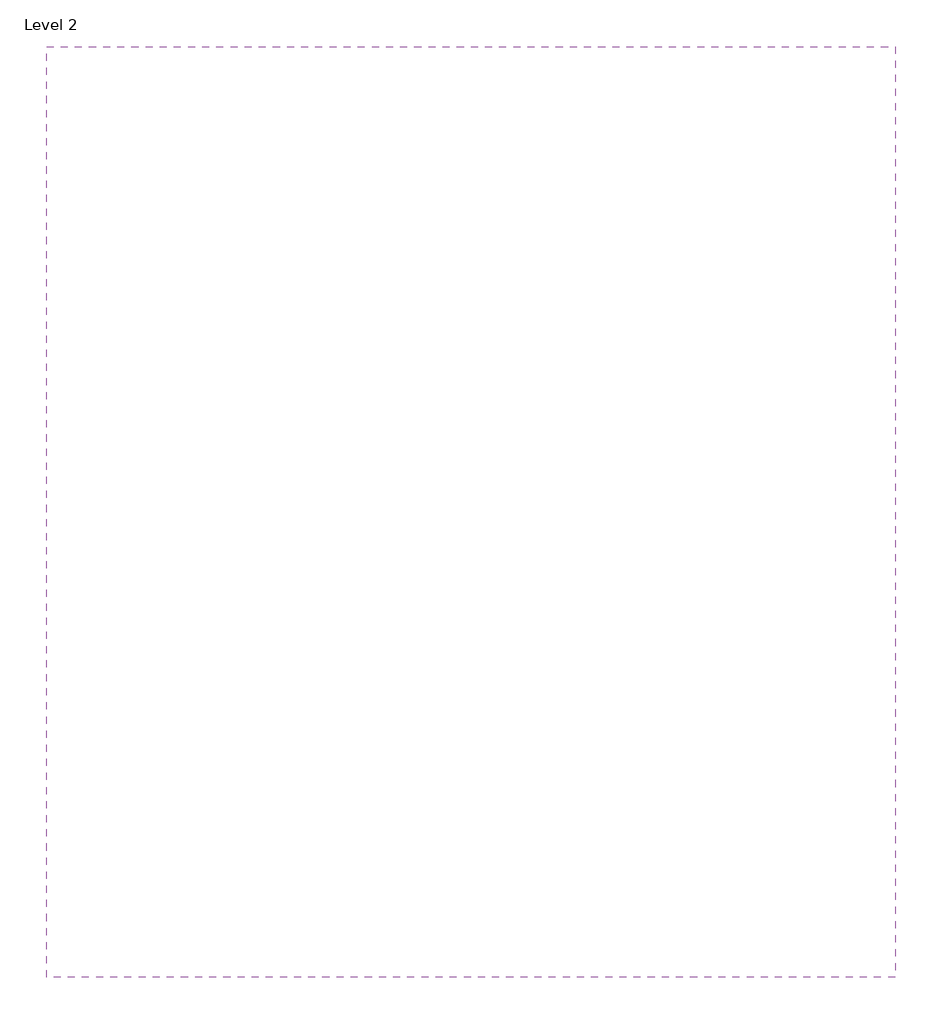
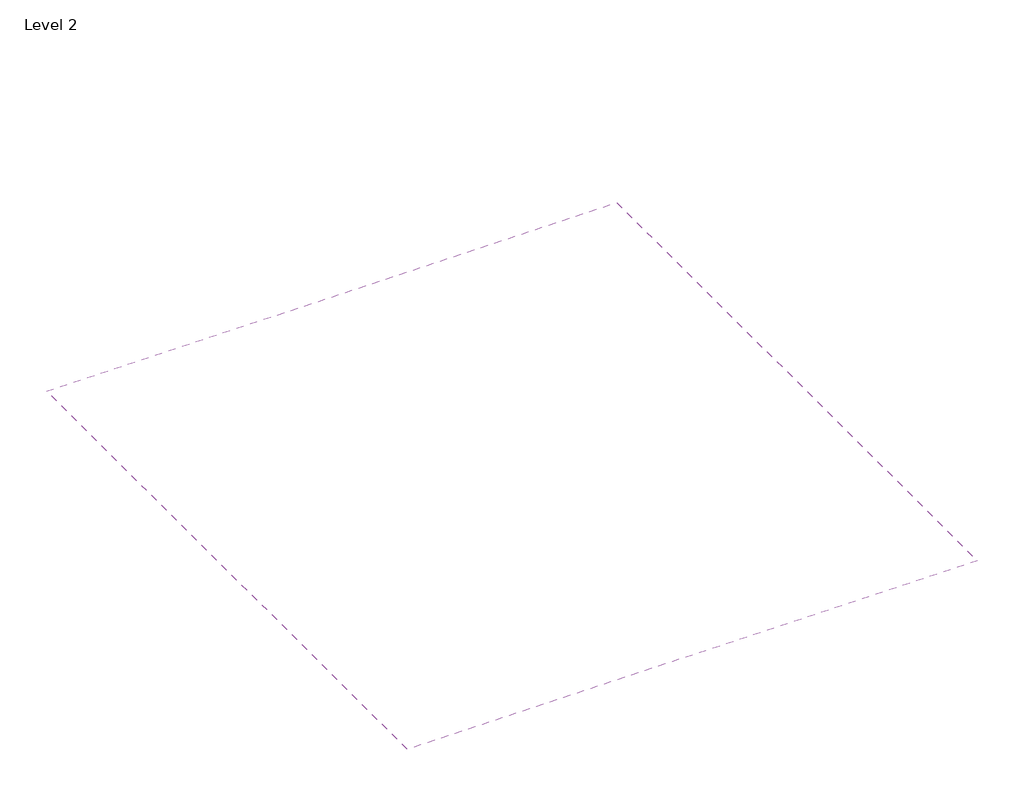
# One storey: 1 roof.
"""IFC4 building model written with IfcOpenShell, lengths in millimetres."""

import ifcopenshell
import ifcopenshell.guid

model = None  # the IFC model being written
_history = None  # IfcOwnerHistory: only IFC2X3 demands one
_inside = {}  # id of a spatial element -> (the spatial element, [elements in it])
_under = {}  # id of a project, library or spatial element -> (it, [spatial elements below it])
_declared = {}  # id of a project -> (the project, [libraries it declares])
_typed = {}  # id of a type object -> (the type object, [elements of that type])
_made_of = {}  # id of a material, layer set ... -> (it, [elements and type objects made of it])


def new_model(schema):
    """Start an empty IFC model of exactly this schema.

    Asked for "IFC4X3", IfcOpenShell would pick the latest addendum, in which some entities
    have other attributes; the version numbers below select the first issue.
    IFC2X3 requires an IfcOwnerHistory on every rooted entity: one is made here for all.
    """
    global model, _history
    if schema == "IFC4X3":
        model = ifcopenshell.file(schema_version=(4, 3, 0, 0))
    else:
        model = ifcopenshell.file(schema=schema)
    _inside.clear()
    _under.clear()
    _declared.clear()
    _typed.clear()
    _made_of.clear()
    _history = None
    if model.schema == "IFC2X3":
        org = make("IfcOrganization", Name="unknown")
        user = make(
            "IfcPersonAndOrganization",
            ThePerson=make("IfcPerson", FamilyName="unknown"),
            TheOrganization=org,
        )
        app = make(
            "IfcApplication",
            ApplicationDeveloper=org,
            Version="unknown",
            ApplicationFullName="unknown",
            ApplicationIdentifier="unknown",
        )
        _history = make(
            "IfcOwnerHistory",
            OwningUser=user,
            OwningApplication=app,
            ChangeAction="ADDED",
            CreationDate=0,
        )
    return model


def make(cls, **values):
    """One entity of the class cls with the attributes given. An attribute that is None is left unset."""
    return model.create_entity(
        cls, **{name: value for name, value in values.items() if value is not None}
    )


def rooted(cls, **values):
    """An entity with a GlobalId (a new one), such as an element, a storey or a relation."""
    return make(cls, GlobalId=ifcopenshell.guid.new(), OwnerHistory=_history, **values)


def si_unit(unit_type, name, prefix=None):
    """IfcSIUnit, for example si_unit("LENGTHUNIT", "METRE", prefix="MILLI")."""
    return make("IfcSIUnit", UnitType=unit_type, Prefix=prefix, Name=name)


def assignment(units):
    """IfcUnitAssignment: the units of a project."""
    return None if units is None else make("IfcUnitAssignment", Units=units)


def point(xyz):
    """IfcCartesianPoint."""
    return None if xyz is None else make("IfcCartesianPoint", Coordinates=xyz)


def direction(xyz):
    """IfcDirection."""
    return None if xyz is None else make("IfcDirection", DirectionRatios=xyz)


def frame(location, z_axis=None, x_axis=None):
    """IfcAxis2Placement3D, a coordinate frame: its origin and axes. An axis left out is left unset."""
    return make(
        "IfcAxis2Placement3D",
        Location=point(location),
        Axis=direction(z_axis),
        RefDirection=direction(x_axis),
    )


def origin():
    """The frame at (0, 0, 0) with its axes left unset."""
    return frame((0.0, 0.0, 0.0))


def place(relative_to, where):
    """IfcLocalPlacement: puts the frame where relative to a parent placement (None: the world)."""
    return make(
        "IfcLocalPlacement", PlacementRelTo=relative_to, RelativePlacement=where
    )


def context(
    kind, dimensions, precision=None, world=None, true_north=None, identifier=None
):
    """IfcGeometricRepresentationContext, for example the 3D "Model" context."""
    return make(
        "IfcGeometricRepresentationContext",
        ContextIdentifier=identifier,
        ContextType=kind,
        CoordinateSpaceDimension=dimensions,
        Precision=precision,
        WorldCoordinateSystem=world,
        TrueNorth=true_north,
    )


def project(units=None, contexts=None):
    """IfcProject with its units and contexts."""
    return rooted(
        "IfcProject",
        Name="project",
        RepresentationContexts=contexts,
        UnitsInContext=assignment(units),
    )


def spatial(cls, under=None, at=None, **own):
    """A site, building, storey or space (cls), placed at a placement, below another one or the project."""
    s = rooted(cls, ObjectPlacement=at, **own)
    if under is not None:
        _under.setdefault(under.id(), (under, []))[1].append(s)
    return s


def polyline(points):
    """IfcPolyline through the points."""
    return make("IfcPolyline", Points=[point(p) for p in points])


def outline(outer, holes=None, kind="AREA"):
    """IfcArbitraryClosedProfileDef: a profile drawn as a closed curve; with holes, ...WithVoids."""
    if holes is None:
        return make("IfcArbitraryClosedProfileDef", ProfileType=kind, OuterCurve=outer)
    return make(
        "IfcArbitraryProfileDefWithVoids",
        ProfileType=kind,
        OuterCurve=outer,
        InnerCurves=holes,
    )


def extrude(swept, where, along, depth):
    """IfcExtrudedAreaSolid: the profile swept, set in the frame where, extruded along a direction by depth."""
    return make(
        "IfcExtrudedAreaSolid",
        SweptArea=swept,
        Position=where,
        ExtrudedDirection=direction(along),
        Depth=depth,
    )


def shape(context_of_items, identifier, shape_type, items):
    """IfcShapeRepresentation: the items that make up one representation, for example the "Body"."""
    return make(
        "IfcShapeRepresentation",
        ContextOfItems=context_of_items,
        RepresentationIdentifier=identifier,
        RepresentationType=shape_type,
        Items=items,
    )


def made_of(thing, what):
    """Note that an element or type object is made of a material, layer set ...; save() writes the relation."""
    if what is not None:
        _made_of.setdefault(what.id(), (what, []))[1].append(thing)
    return thing


def element(
    cls,
    number,
    at=None,
    inside=None,
    cuts=None,
    type_object=None,
    material=None,
    context=None,
    identifier="Body",
    shape_type=None,
    held_by="IfcProductDefinitionShape",
    body=None,
    shapes=None,
    **own,
):
    """One element of the class cls, such as IfcWall. Its Tag is "e" and its number.

    at: its placement. inside: the storey or other place that contains it. cuts: it is an
    opening in that element (IfcRelVoidsElement). A single representation is given by context,
    identifier, shape_type and body (its items); several are given by shapes. held_by: the class
    of the entity that holds the representations. save() writes the other relations.
    """
    e = rooted(cls, Tag="e%d" % number, ObjectPlacement=at, **own)
    if body is not None:
        shapes = [shape(context, identifier, shape_type, body)]
    if shapes is not None:
        e.Representation = make(held_by, Representations=shapes)
    if inside is not None:
        _inside.setdefault(inside.id(), (inside, []))[1].append(e)
    if cuts is not None:
        rooted(
            "IfcRelVoidsElement", RelatingBuildingElement=cuts, RelatedOpeningElement=e
        )
    if type_object is not None:
        _typed.setdefault(type_object.id(), (type_object, []))[1].append(e)
    return made_of(e, material)


def aggregate(whole, parts):
    """IfcRelAggregates: a whole, such as a stair, and the parts it consists of."""
    return rooted("IfcRelAggregates", RelatingObject=whole, RelatedObjects=parts)


def save(model, path):
    """Write the relations noted so far, then the file.

    IfcRelAggregates (storeys below a building ...), IfcRelContainedInSpatialStructure (elements
    in a storey), IfcRelDefinesByType, IfcRelAssociatesMaterial and IfcRelDeclares: one each for
    every whole, place, type object, material and project.
    """
    for whole, parts in _under.values():
        aggregate(whole, parts)
    for where, things in _inside.values():
        rooted(
            "IfcRelContainedInSpatialStructure",
            RelatedElements=things,
            RelatingStructure=where,
        )
    for kind, things in _typed.values():
        rooted("IfcRelDefinesByType", RelatedObjects=things, RelatingType=kind)
    for what, things in _made_of.values():
        rooted("IfcRelAssociatesMaterial", RelatedObjects=things, RelatingMaterial=what)
    for by, libraries in _declared.values():
        rooted("IfcRelDeclares", RelatingContext=by, RelatedDefinitions=libraries)
    model.write(path)


model = new_model("IFC4")

# Units and contexts
model_context = context("Model", 3, world=origin())
ifc_project = project(units=[si_unit("LENGTHUNIT", "METRE", prefix="MILLI")], contexts=[model_context])

# Site, building, storey
site = spatial("IfcSite", under=ifc_project)
building = spatial("IfcBuilding", under=site)
storey = spatial("IfcBuildingStorey", under=building, Name="Level 2", Elevation=3048.0)

# Roof
placement = place(None, origin())
element("IfcRoof", 1, ObjectType="Generic - 12\"", at=placement, inside=storey, context=model_context, shape_type="SweptSolid", body=[
    extrude(outline(polyline([(-11156.5785195, 5791.2), (984.6214805, 11861.8), (13125.8214805, 5791.2), (13125.8214805, 5450.4232402), (984.6214805, 11521.0232402), (-11156.5785195, 5450.4232402), (-11156.5785195, 5791.2)])), frame((-11512.9057377, 0.0, 0.0), z_axis=(1.0, 0.0, 0.0), x_axis=(0.0, 1.0, 0.0)), (0.0, 0.0, 1.0), 22148.8),
])

save(model, "model.ifc")
